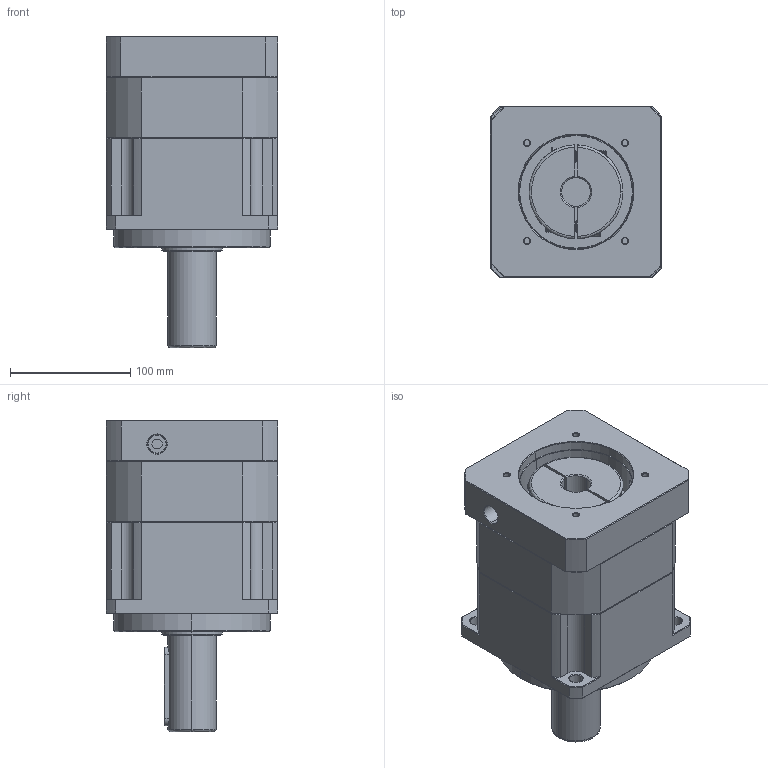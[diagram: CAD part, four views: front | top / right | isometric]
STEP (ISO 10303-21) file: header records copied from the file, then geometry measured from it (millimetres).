
FILE_DESCRIPTION (( 'STEP AP214' ), '1' );
FILE_NAME ('ZPB142-L1-P1-S2-24-95-115-M6.step', '2024-07-05T00:15:39', ( 'Windows 蚚誧' ), ( 'Organization' ), 'SwSTEP 2.0', 'SolidWorks 2016', '' );
FILE_SCHEMA (( 'AUTOMOTIVE_DESIGN' ));
Length unit declared in the file: millimetre
Products named in the file (1): ZPB142-L1-P1-S2-24-95-115-M6
Bounding box: 142 x 142 x 258.5 mm (x, y, z)
Surface area: 193957.2 mm2 (no closed solid volume)
Topology: 0 solids, 37 shells, 1772 faces, 4736 edges, 3038 vertices
Faces by surface type: plane 915, bspline 383, cone 263, cylinder 211
Full cylindrical faces by diameter (mm): 14 x1
Entity records: 100053 total; most frequent: CARTESIAN_POINT 50525, ORIENTED_EDGE 9447, DIRECTION 7254, EDGE_CURVE 4735, VECTOR 3142, LINE 3142, VERTEX_POINT 3038, AXIS2_PLACEMENT_3D 2056
